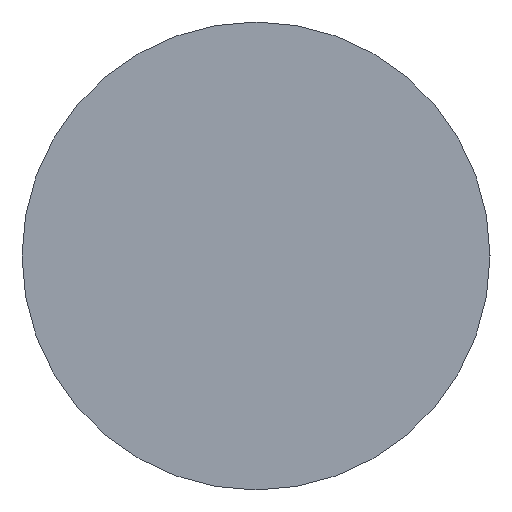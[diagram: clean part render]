
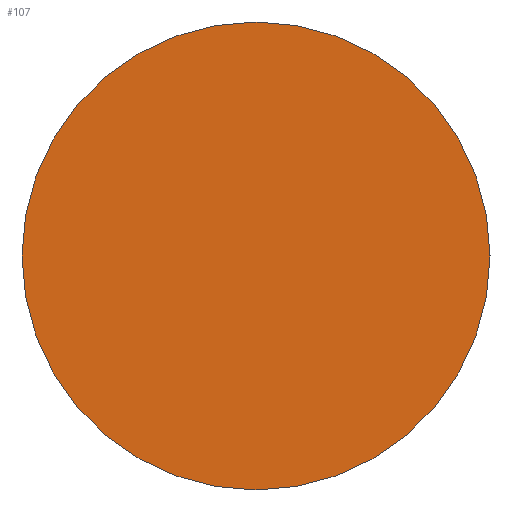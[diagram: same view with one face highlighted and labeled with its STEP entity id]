
A CAD part, left-side view. The second image highlights one B-rep face of the part: STEP entity #107.
In plain terms, the highlighted planar face has unit normal (-1, 0, 0).
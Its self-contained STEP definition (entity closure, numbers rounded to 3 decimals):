
#57=AXIS2_PLACEMENT_3D('Circle Axis2P3D',#55,#56,$) ;
#83=AXIS2_PLACEMENT_3D('Circle Axis2P3D',#81,#82,$) ;
#101=AXIS2_PLACEMENT_3D('Plane Axis2P3D',#98,#99,#100) ;
#50=CARTESIAN_POINT('Vertex',(0.,15.,0.)) ;
#55=CARTESIAN_POINT('Axis2P3D Location',(0.,0.,0.)) ;
#59=CARTESIAN_POINT('Vertex',(0.,-15.,0.)) ;
#81=CARTESIAN_POINT('Axis2P3D Location',(0.,0.,0.)) ;
#98=CARTESIAN_POINT('Axis2P3D Location',(0.,0.,0.)) ;
#56=DIRECTION('Axis2P3D Direction',(1.,0.,0.)) ;
#82=DIRECTION('Axis2P3D Direction',(1.,0.,0.)) ;
#99=DIRECTION('Axis2P3D Direction',(1.,0.,0.)) ;
#100=DIRECTION('Axis2P3D XDirection',(0.,1.,0.)) ;
#104=ORIENTED_EDGE('',*,*,#85,.F.) ;
#105=ORIENTED_EDGE('',*,*,#61,.F.) ;
#107=ADVANCED_FACE('\X2\96F64EF651E04F554F53\X0\',(#106),#102,.F.) ;
#58=CIRCLE('generated circle',#57,15.) ;
#84=CIRCLE('generated circle',#83,15.) ;
#61=EDGE_CURVE('',#51,#60,#58,.T.) ;
#85=EDGE_CURVE('',#60,#51,#84,.T.) ;
#103=EDGE_LOOP('',(#104,#105)) ;
#106=FACE_OUTER_BOUND('',#103,.T.) ;
#102=PLANE('Plane',#101) ;
#51=VERTEX_POINT('',#50) ;
#60=VERTEX_POINT('',#59) ;
